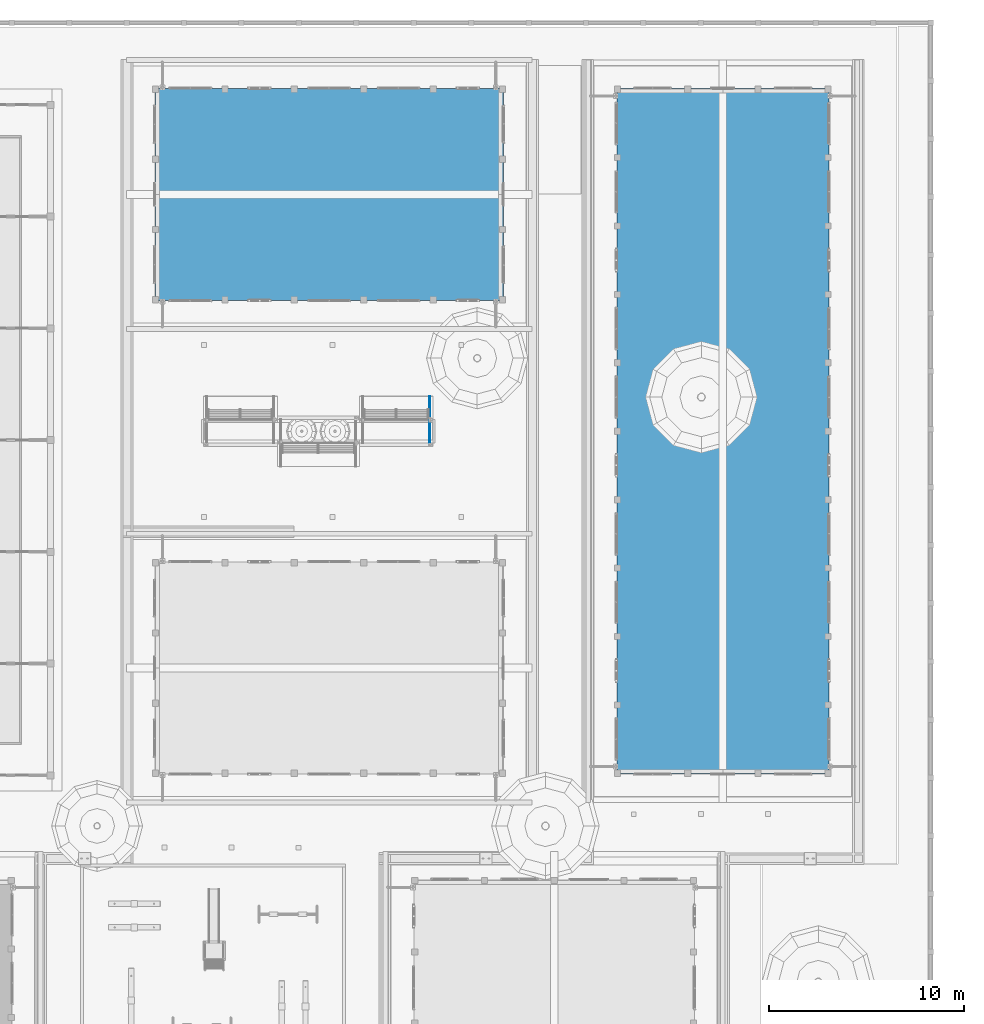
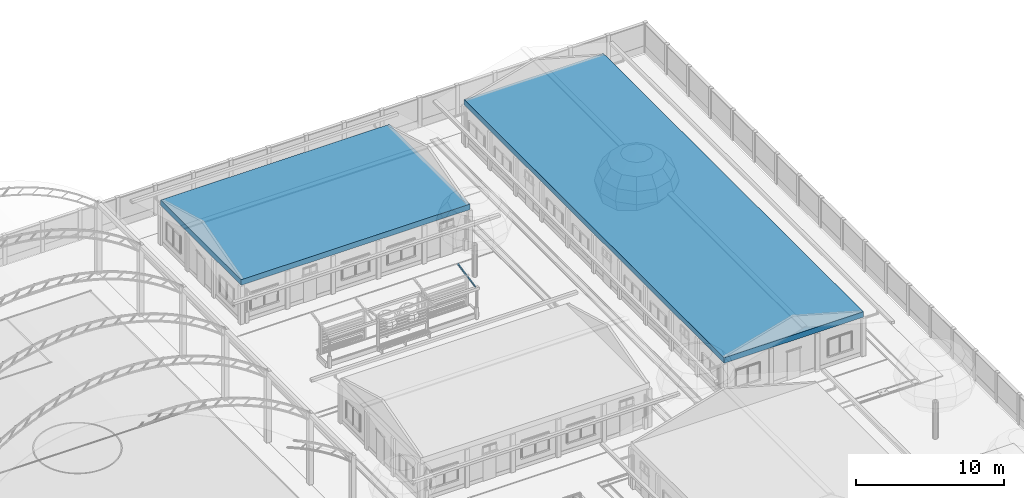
# One storey, part 34 of 177: 3 beams.
"""IFC4 building model written with IfcOpenShell, lengths in metres."""

from ifc_helpers import new_model, si_unit, origin, origin_with_axes, place, context, subcontext, project, spatial, triangles, element, save


model = new_model("IFC4")

# Units and contexts
model_context = context("Model", 3, precision=1e-05, world=origin_with_axes())
body_context = subcontext(model_context, "Body", "Model", "MODEL_VIEW")
ifc_project = project(units=[si_unit("LENGTHUNIT", "METRE"), si_unit("AREAUNIT", "SQUARE_METRE"), si_unit("VOLUMEUNIT", "CUBIC_METRE"), si_unit("PLANEANGLEUNIT", "RADIAN")], contexts=[model_context])

# Site, building, storey
site_placement = place(None, origin_with_axes())
site = spatial("IfcSite", under=ifc_project, at=site_placement, Name="Predio Los Mangos - Morales, San Martín", CompositionType="ELEMENT")
building_placement = place(site_placement, origin())
building = spatial("IfcBuilding", under=site, at=building_placement, Name="Hogar de Refugio Temporal", CompositionType="ELEMENT")
storey_placement = place(building_placement, origin())
storey = spatial("IfcBuildingStorey", under=building, at=storey_placement, Name="NIVEL 1 (NPT +0.00)", CompositionType="ELEMENT", Elevation=0.0)

# Beams
beam_1_placement = place(storey_placement, origin())
element("IfcBeam", 1, at=beam_1_placement, inside=storey, Name="E-08_viga", ObjectType="Viga", PredefinedType="BEAM", context=body_context, shape_type="Tessellation", body=[
    triangles([(31.96, 116.96, 3.3), (49.84, 116.96, 3.3), (49.84, 127.84, 3.3), (31.96, 127.84, 3.3), (31.96, 116.96, 3.75), (49.84, 116.96, 3.75), (49.84, 127.84, 3.75), (31.96, 127.84, 3.75)], [[1, 4, 3], [1, 3, 2], [5, 6, 7], [5, 7, 8], [1, 2, 6], [1, 6, 5], [2, 3, 7], [2, 7, 6], [3, 4, 8], [3, 8, 7], [4, 1, 5], [4, 5, 8]]),
])
beam_2_placement = place(storey_placement, origin())
element("IfcBeam", 2, at=beam_2_placement, inside=storey, Name="E-07_viga", ObjectType="Viga", PredefinedType="BEAM", context=body_context, shape_type="Tessellation", body=[
    triangles([(55.66, 92.66, 3.3), (66.54, 92.66, 3.3), (66.54, 127.84, 3.3), (55.66, 127.84, 3.3), (55.66, 92.66, 3.75), (66.54, 92.66, 3.75), (66.54, 127.84, 3.75), (55.66, 127.84, 3.75)], [[1, 4, 3], [1, 3, 2], [5, 6, 7], [5, 7, 8], [1, 2, 6], [1, 6, 5], [2, 3, 7], [2, 7, 6], [3, 4, 8], [3, 8, 7], [4, 1, 5], [4, 5, 8]]),
])
beam_3_placement = place(storey_placement, origin())
element("IfcBeam", 3, at=beam_3_placement, inside=storey, Name="oc01_correa", ObjectType="Viga", PredefinedType="BEAM", context=body_context, shape_type="Tessellation", body=[
    triangles([(46.09, 109.6594, 2.5909), (46.09, 112.0594, 3.0509), (46.04, 112.0594, 3.0509), (46.04, 109.6594, 2.5909), (46.09, 109.6406, 2.6891), (46.09, 112.0406, 3.1491), (46.04, 112.0406, 3.1491), (46.04, 109.6406, 2.6891)], [[1, 4, 3], [1, 3, 2], [5, 6, 7], [5, 7, 8], [1, 2, 6], [1, 6, 5], [2, 3, 7], [2, 7, 6], [3, 4, 8], [3, 8, 7], [4, 1, 5], [4, 5, 8]]),
])

save(model, "model.ifc")
